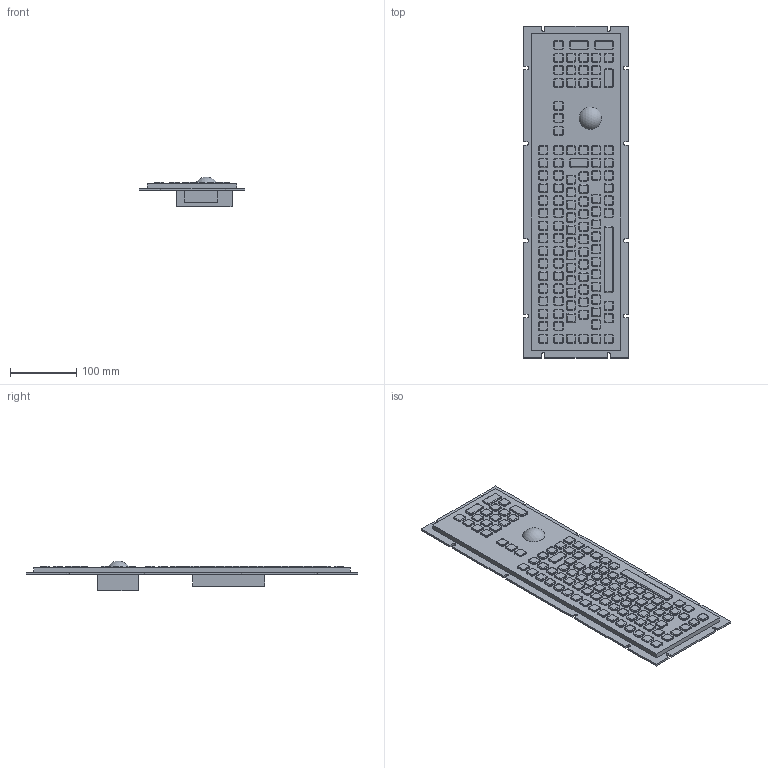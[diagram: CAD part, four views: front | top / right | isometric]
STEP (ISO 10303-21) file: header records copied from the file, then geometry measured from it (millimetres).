
FILE_DESCRIPTION(('CATIA V5 STEP Exchange'),'2;1');
FILE_NAME('C:\Users\druid\Desktop\Product1_AllCATPart.stp','2025-02-05T06:01:51+00:00',('none'),('none'),'CATIA Version 5-6 Release 2019 SP6','CATIA V5 STEP AP203 v1','none');
FILE_SCHEMA(('CONFIG_CONTROL_DESIGN'));
Length unit declared in the file: millimetre
Products named in the file (1): Product1_AllCATPart
Bounding box: 159 x 502 x 45.17 mm (x, y, z)
Volume: 992107.3 mm3; surface area: 196217.2 mm2
Topology: 1 solids, 1 shells, 1873 faces, 4435 edges, 2674 vertices
Faces by surface type: cylinder 860, plane 587, torus 424, sphere 2
Entity records: 51622 total; most frequent: CARTESIAN_POINT 9059, ORIENTED_EDGE 8870, DIRECTION 8131, EDGE_CURVE 4435, AXIS2_PLACEMENT_3D 3995, VERTEX_POINT 2674, VECTOR 2288, LINE 2288
